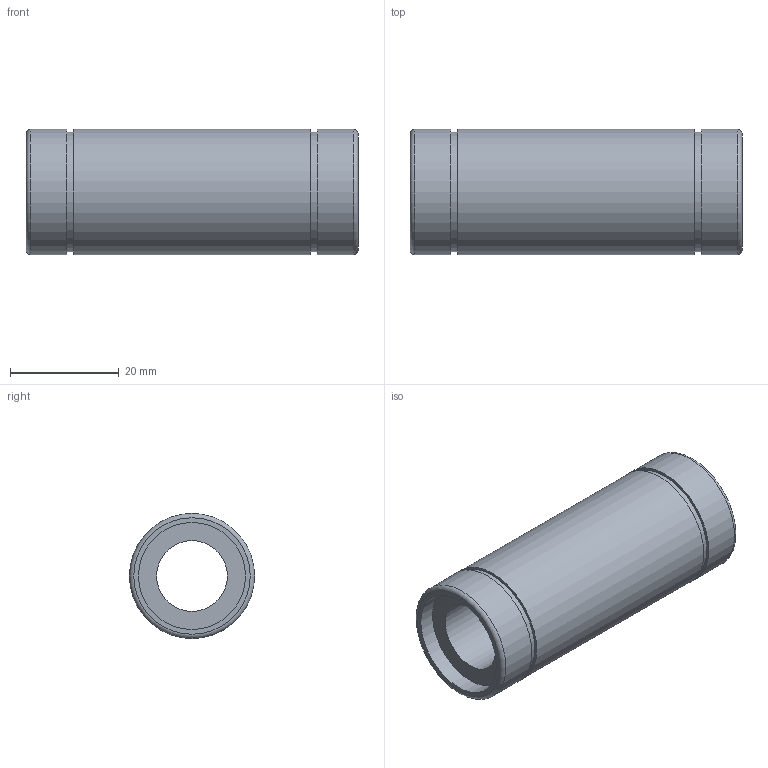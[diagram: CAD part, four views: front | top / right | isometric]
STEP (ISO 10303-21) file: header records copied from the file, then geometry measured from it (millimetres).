
FILE_DESCRIPTION( ( 'Unknown' ), '1' );
FILE_NAME( 'D:/累诀/己绕皋墨飘肺葱胶/11-04-06_档搁累己/01_府聪绢何教/LM L/LM 13L.stp', 'Unknown', ( 'Unknown' ), ( 'Unknown' ), 'PSStep 11.0', 'Unknown', ' ' );
FILE_SCHEMA( ( 'AUTOMOTIVE_DESIGN { 1 0 10303 214 1 1 1 1 }' ) );
Length unit declared in the file: millimetre
Products named in the file (1): 1
Bounding box: 61 x 23 x 23 mm (x, y, z)
Volume: 16093.8 mm3; surface area: 7675.1 mm2
Topology: 1 solids, 1 shells, 18 faces, 31 edges, 21 vertices
Faces by surface type: plane 8, cylinder 8, torus 2
Full cylindrical faces by diameter (mm): 13 x1, 19.66 x2, 22 x2, 23 x3
Entity records: 528 total; most frequent: DIRECTION 74, CARTESIAN_POINT 55, AXIS2_PLACEMENT_3D 37, EDGE_LOOP 36, ORIENTED_EDGE 36, FACE_OUTER_BOUND 28, STYLED_ITEM 18, PRESENTATION_STYLE_ASSIGNMENT 18
